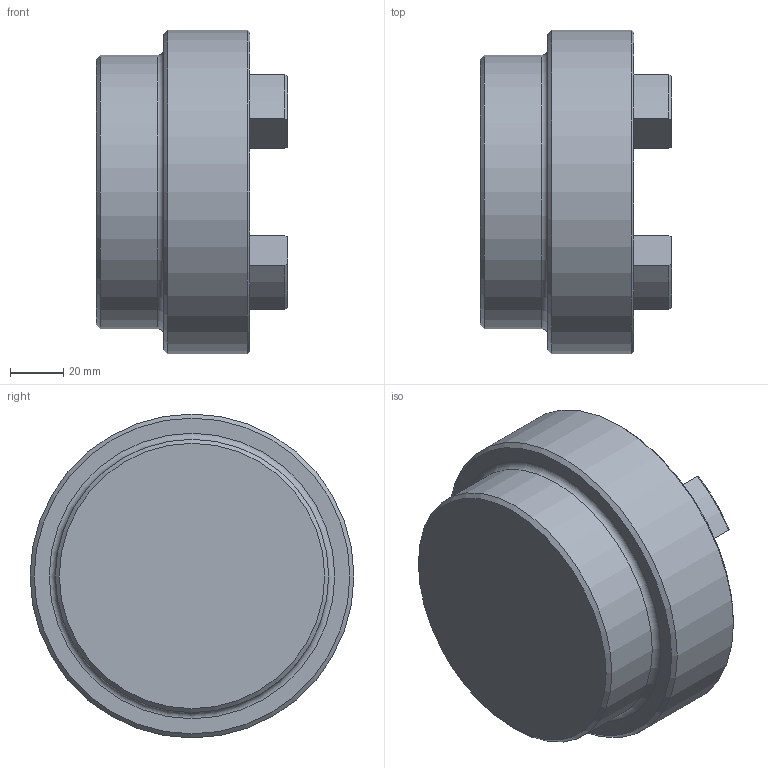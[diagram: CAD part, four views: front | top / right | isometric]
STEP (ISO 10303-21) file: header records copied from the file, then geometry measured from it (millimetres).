
FILE_DESCRIPTION (( 'STEP AP203' ), '1' );
FILE_NAME ('RC5.step', '2024-07-25T13:18:52', ( 'Adlan' ), ( '' ), 'SwSTEP 2.0', 'SolidWorks 2013', '' );
FILE_SCHEMA (( 'CONFIG_CONTROL_DESIGN' ));
Length unit declared in the file: inch
Products named in the file (1): RC5
Bounding box: 72.14 x 122.17 x 122.17 mm (x, y, z)
Volume: 479587.5 mm3; surface area: 55788.3 mm2
Topology: 1 solids, 1 shells, 74 faces, 183 edges, 113 vertices
Faces by surface type: cylinder 30, torus 17, plane 16, cone 11
Full cylindrical faces by diameter (mm): 103.124 x1, 122.174 x1
Entity records: 2295 total; most frequent: CARTESIAN_POINT 435, DIRECTION 406, ORIENTED_EDGE 352, EDGE_CURVE 176, AXIS2_PLACEMENT_3D 163, VERTEX_POINT 112, CIRCLE 88, EDGE_LOOP 82
